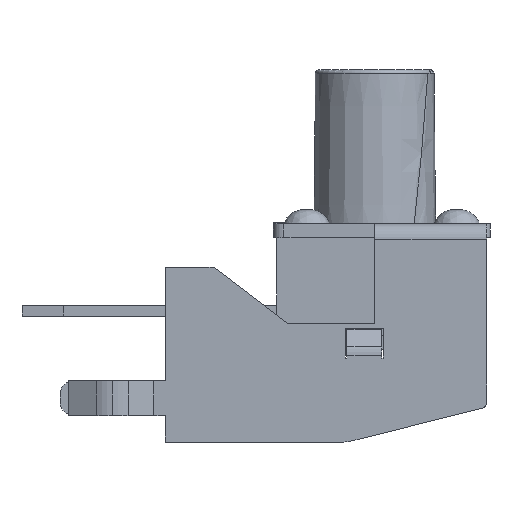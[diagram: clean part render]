
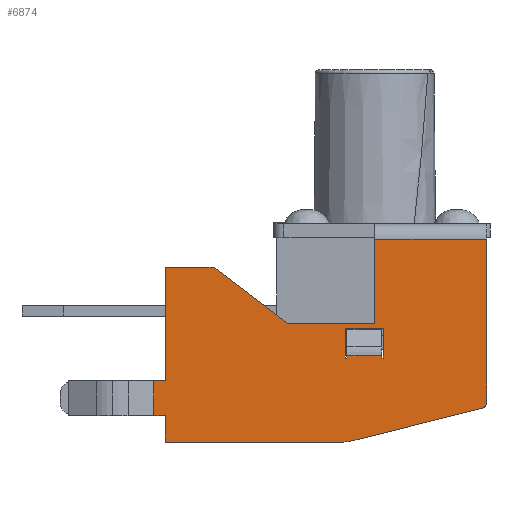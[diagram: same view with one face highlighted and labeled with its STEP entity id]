
A CAD part, front view. The second image highlights one B-rep face of the part: STEP entity #6874.
In plain terms, the highlighted planar face has unit normal (0, -1, 0).
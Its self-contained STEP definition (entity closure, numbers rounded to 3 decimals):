
#1540=DIRECTION('',(-1.,0.,0.));
#1541=VECTOR('',#1540,3.2);
#1542=CARTESIAN_POINT('',(-113.658,26.21,1.836));
#1543=LINE('',#1542,#1541);
#1596=DIRECTION('',(0.795,0.,-0.606));
#1597=VECTOR('',#1596,2.64);
#1598=CARTESIAN_POINT('',(-121.458,26.21,1.029));
#1599=LINE('',#1598,#1597);
#1600=DIRECTION('',(0.,0.,-1.));
#1601=VECTOR('',#1600,4.69);
#1602=CARTESIAN_POINT('',(-113.658,26.21,1.836));
#1603=LINE('',#1602,#1601);
#1604=CARTESIAN_POINT('',(-113.808,26.21,
-2.854));
#1605=DIRECTION('',(0.,1.,0.));
#1606=DIRECTION('',(1.,0.,0.));
#1607=AXIS2_PLACEMENT_3D('',#1604,#1605,#1606);
#1609=DIRECTION('',(-0.97,0.,-0.243));
#1610=VECTOR('',#1609,3.883);
#1611=CARTESIAN_POINT('',(-113.771,26.21,
-2.999));
#1612=LINE('',#1611,#1610);
#1613=CARTESIAN_POINT('',(-117.781,26.21,
-2.971));
#1614=DIRECTION('',(0.,1.,0.));
#1615=DIRECTION('',(0.243,0.,-0.97));
#1616=AXIS2_PLACEMENT_3D('',#1613,#1614,#1615);
#1618=DIRECTION('',(-1.,0.,0.));
#1619=VECTOR('',#1618,0.323);
#1620=CARTESIAN_POINT('',(-122.858,26.21,
-3.211));
#1621=LINE('',#1620,#1619);
#1622=DIRECTION('',(0.,0.,-1.));
#1623=VECTOR('',#1622,1.);
#1624=CARTESIAN_POINT('',(-123.181,26.21,
-2.211));
#1625=LINE('',#1624,#1623);
#1644=DIRECTION('',(-1.,0.,0.));
#1645=VECTOR('',#1644,0.323);
#1646=CARTESIAN_POINT('',(-122.858,26.21,
-2.211));
#1647=LINE('',#1646,#1645);
#1656=DIRECTION('',(0.,0.,-1.));
#1657=VECTOR('',#1656,3.24);
#1658=CARTESIAN_POINT('',(-122.858,26.21,1.029));
#1659=LINE('',#1658,#1657);
#1668=DIRECTION('',(-1.,0.,0.));
#1669=VECTOR('',#1668,1.4);
#1670=CARTESIAN_POINT('',(-121.458,26.21,1.029));
#1671=LINE('',#1670,#1669);
#1684=DIRECTION('',(-1.,0.,0.));
#1685=VECTOR('',#1684,2.5);
#1686=CARTESIAN_POINT('',(-116.858,26.21,
-0.571));
#1687=LINE('',#1686,#1685);
#1692=DIRECTION('',(0.,0.,-1.));
#1693=VECTOR('',#1692,2.407);
#1694=CARTESIAN_POINT('',(-116.858,26.21,1.836));
#1695=LINE('',#1694,#1693);
#1986=DIRECTION('',(1.,0.,0.));
#1987=VECTOR('',#1986,5.077);
#1988=CARTESIAN_POINT('',(-122.858,26.21,
-3.971));
#1989=LINE('',#1988,#1987);
#2002=DIRECTION('',(0.,0.,-1.));
#2003=VECTOR('',#2002,0.76);
#2004=CARTESIAN_POINT('',(-122.858,26.21,
-3.211));
#2005=LINE('',#2004,#2003);
#2014=DIRECTION('',(0.,0.,1.));
#2015=VECTOR('',#2014,0.073);
#2016=CARTESIAN_POINT('',(-116.658,26.21,-1.564));
#2017=LINE('',#2016,#2015);
#2018=DIRECTION('',(-1.,0.,0.));
#2019=VECTOR('',#2018,0.05);
#2020=CARTESIAN_POINT('',(-116.608,26.21,-1.564));
#2021=LINE('',#2020,#2019);
#2030=DIRECTION('',(0.,0.,-1.));
#2031=VECTOR('',#2030,0.85);
#2032=CARTESIAN_POINT('',(-116.608,26.21,
-0.714));
#2033=LINE('',#2032,#2031);
#2042=DIRECTION('',(1.,0.,0.));
#2043=VECTOR('',#2042,1.1);
#2044=CARTESIAN_POINT('',(-117.708,26.21,
-0.714));
#2045=LINE('',#2044,#2043);
#2054=DIRECTION('',(0.,0.,1.));
#2055=VECTOR('',#2054,0.85);
#2056=CARTESIAN_POINT('',(-117.708,26.21,-1.564));
#2057=LINE('',#2056,#2055);
#2066=DIRECTION('',(-1.,0.,0.));
#2067=VECTOR('',#2066,0.05);
#2068=CARTESIAN_POINT('',(-117.658,26.21,-1.564));
#2069=LINE('',#2068,#2067);
#2078=DIRECTION('',(0.,0.,-1.));
#2079=VECTOR('',#2078,0.073);
#2080=CARTESIAN_POINT('',(-117.658,26.21,
-1.491));
#2081=LINE('',#2080,#2079);
#2134=DIRECTION('',(-1.,0.,0.));
#2135=VECTOR('',#2134,1.);
#2136=CARTESIAN_POINT('',(-116.658,26.21,
-1.491));
#2137=LINE('',#2136,#2135);
#4142=CARTESIAN_POINT('',(-113.658,26.21,1.836));
#4143=VERTEX_POINT('',#4142);
#4175=CARTESIAN_POINT('',(-122.858,26.21,
-3.211));
#4177=VERTEX_POINT('',#4175);
#4180=CARTESIAN_POINT('',(-122.858,26.21,
-2.211));
#4181=CARTESIAN_POINT('',(-123.181,26.21,
-2.211));
#4182=VERTEX_POINT('',#4180);
#4183=VERTEX_POINT('',#4181);
#4184=CARTESIAN_POINT('',(-122.858,26.21,1.029));
#4185=VERTEX_POINT('',#4184);
#4186=CARTESIAN_POINT('',(-121.458,26.21,1.029));
#4187=VERTEX_POINT('',#4186);
#4188=CARTESIAN_POINT('',(-119.358,26.21,
-0.571));
#4189=VERTEX_POINT('',#4188);
#4190=CARTESIAN_POINT('',(-116.858,26.21,
-0.571));
#4191=VERTEX_POINT('',#4190);
#4192=CARTESIAN_POINT('',(-116.858,26.21,1.836));
#4193=VERTEX_POINT('',#4192);
#4194=CARTESIAN_POINT('',(-113.658,26.21,
-2.854));
#4195=VERTEX_POINT('',#4194);
#4196=CARTESIAN_POINT('',(-113.771,26.21,
-2.999));
#4197=VERTEX_POINT('',#4196);
#4198=CARTESIAN_POINT('',(-117.538,26.21,
-3.941));
#4199=VERTEX_POINT('',#4198);
#4200=CARTESIAN_POINT('',(-117.781,26.21,
-3.971));
#4201=VERTEX_POINT('',#4200);
#4202=CARTESIAN_POINT('',(-122.858,26.21,
-3.971));
#4203=VERTEX_POINT('',#4202);
#4204=CARTESIAN_POINT('',(-123.181,26.21,
-3.211));
#4205=VERTEX_POINT('',#4204);
#4328=CARTESIAN_POINT('',(-116.658,26.21,-1.564));
#4329=CARTESIAN_POINT('',(-116.658,26.21,
-1.491));
#4330=VERTEX_POINT('',#4328);
#4331=VERTEX_POINT('',#4329);
#4332=CARTESIAN_POINT('',(-116.608,26.21,-1.564));
#4333=VERTEX_POINT('',#4332);
#4334=CARTESIAN_POINT('',(-116.608,26.21,
-0.714));
#4335=VERTEX_POINT('',#4334);
#4336=CARTESIAN_POINT('',(-117.708,26.21,
-0.714));
#4337=VERTEX_POINT('',#4336);
#4338=CARTESIAN_POINT('',(-117.708,26.21,-1.564));
#4339=VERTEX_POINT('',#4338);
#4340=CARTESIAN_POINT('',(-117.658,26.21,-1.564));
#4341=VERTEX_POINT('',#4340);
#4342=CARTESIAN_POINT('',(-117.658,26.21,
-1.491));
#4343=VERTEX_POINT('',#4342);
#6822=CARTESIAN_POINT('',(-118.42,26.21,
-1.067));
#6823=DIRECTION('',(0.,1.,0.));
#6824=DIRECTION('',(-1.,0.,0.));
#6825=AXIS2_PLACEMENT_3D('',#6822,#6823,#6824);
#6826=PLANE('',#6825);
#6828=ORIENTED_EDGE('',*,*,#6827,.F.);
#6830=ORIENTED_EDGE('',*,*,#6829,.F.);
#6832=ORIENTED_EDGE('',*,*,#6831,.F.);
#6834=ORIENTED_EDGE('',*,*,#6833,.F.);
#6836=ORIENTED_EDGE('',*,*,#6835,.T.);
#6838=ORIENTED_EDGE('',*,*,#6837,.F.);
#6840=ORIENTED_EDGE('',*,*,#6839,.F.);
#6841=ORIENTED_EDGE('',*,*,#6673,.F.);
#6842=ORIENTED_EDGE('',*,*,#6746,.T.);
#6844=ORIENTED_EDGE('',*,*,#6843,.T.);
#6846=ORIENTED_EDGE('',*,*,#6845,.T.);
#6848=ORIENTED_EDGE('',*,*,#6847,.T.);
#6850=ORIENTED_EDGE('',*,*,#6849,.F.);
#6852=ORIENTED_EDGE('',*,*,#6851,.F.);
#6853=ORIENTED_EDGE('',*,*,#6812,.T.);
#6854=EDGE_LOOP('',(#6828,#6830,#6832,#6834,#6836,#6838,#6840,#6841,#6842,#6844,
#6846,#6848,#6850,#6852,#6853));
#6855=FACE_OUTER_BOUND('',#6854,.F.);
#6857=ORIENTED_EDGE('',*,*,#6856,.F.);
#6859=ORIENTED_EDGE('',*,*,#6858,.F.);
#6861=ORIENTED_EDGE('',*,*,#6860,.F.);
#6863=ORIENTED_EDGE('',*,*,#6862,.F.);
#6865=ORIENTED_EDGE('',*,*,#6864,.F.);
#6867=ORIENTED_EDGE('',*,*,#6866,.F.);
#6869=ORIENTED_EDGE('',*,*,#6868,.F.);
#6871=ORIENTED_EDGE('',*,*,#6870,.F.);
#6872=EDGE_LOOP('',(#6857,#6859,#6861,#6863,#6865,#6867,#6869,#6871));
#6873=FACE_BOUND('',#6872,.F.);
#1608=CIRCLE('',#1607,0.15);
#1617=CIRCLE('',#1616,1.);
#6673=EDGE_CURVE('',#4143,#4193,#1543,.T.);
#6746=EDGE_CURVE('',#4143,#4195,#1603,.T.);
#6812=EDGE_CURVE('',#4177,#4205,#1621,.T.);
#6827=EDGE_CURVE('',#4183,#4205,#1625,.T.);
#6829=EDGE_CURVE('',#4182,#4183,#1647,.T.);
#6831=EDGE_CURVE('',#4185,#4182,#1659,.T.);
#6833=EDGE_CURVE('',#4187,#4185,#1671,.T.);
#6835=EDGE_CURVE('',#4187,#4189,#1599,.T.);
#6837=EDGE_CURVE('',#4191,#4189,#1687,.T.);
#6839=EDGE_CURVE('',#4193,#4191,#1695,.T.);
#6843=EDGE_CURVE('',#4195,#4197,#1608,.T.);
#6845=EDGE_CURVE('',#4197,#4199,#1612,.T.);
#6847=EDGE_CURVE('',#4199,#4201,#1617,.T.);
#6849=EDGE_CURVE('',#4203,#4201,#1989,.T.);
#6851=EDGE_CURVE('',#4177,#4203,#2005,.T.);
#6856=EDGE_CURVE('',#4330,#4331,#2017,.T.);
#6858=EDGE_CURVE('',#4333,#4330,#2021,.T.);
#6860=EDGE_CURVE('',#4335,#4333,#2033,.T.);
#6862=EDGE_CURVE('',#4337,#4335,#2045,.T.);
#6864=EDGE_CURVE('',#4339,#4337,#2057,.T.);
#6866=EDGE_CURVE('',#4341,#4339,#2069,.T.);
#6868=EDGE_CURVE('',#4343,#4341,#2081,.T.);
#6870=EDGE_CURVE('',#4331,#4343,#2137,.T.);
#6874=ADVANCED_FACE('',(#6855,#6873),#6826,.F.);
